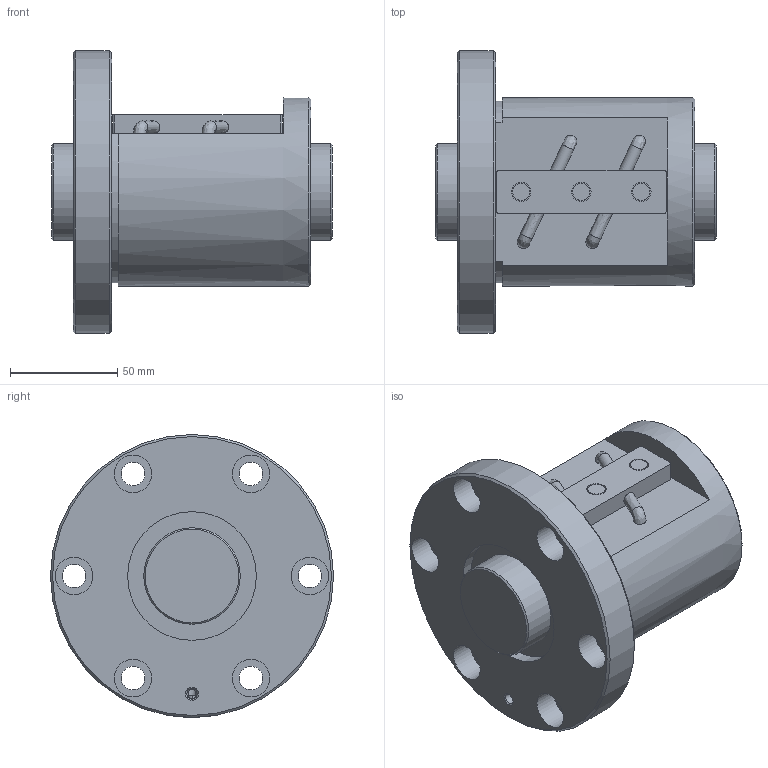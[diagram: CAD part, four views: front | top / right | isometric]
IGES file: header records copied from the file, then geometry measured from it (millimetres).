
Start section: Data from Parasolid IGES Translator 26.0.171, Copyright(c) 2006 Siemens PLM Software. All Rights Reserved.
Global section: file name: BNF4510V-5RRG1+131LC0_000_rev.igs; native system: By Siemens PLM Incorporated; preprocessor: XPlus GENERIC/IGES 26.0.171; author: Noname; organization: Noname; date: 20240806.085448; units: millimetre
Bounding box: 131 x 132 x 132 mm (x, y, z)
Surface area: 103856.9 mm2 (no closed solid volume)
Topology: 0 solids, 0 shells, 79 faces, 372 edges, 330 vertices
Faces by surface type: revolution 50, extrusion 29
